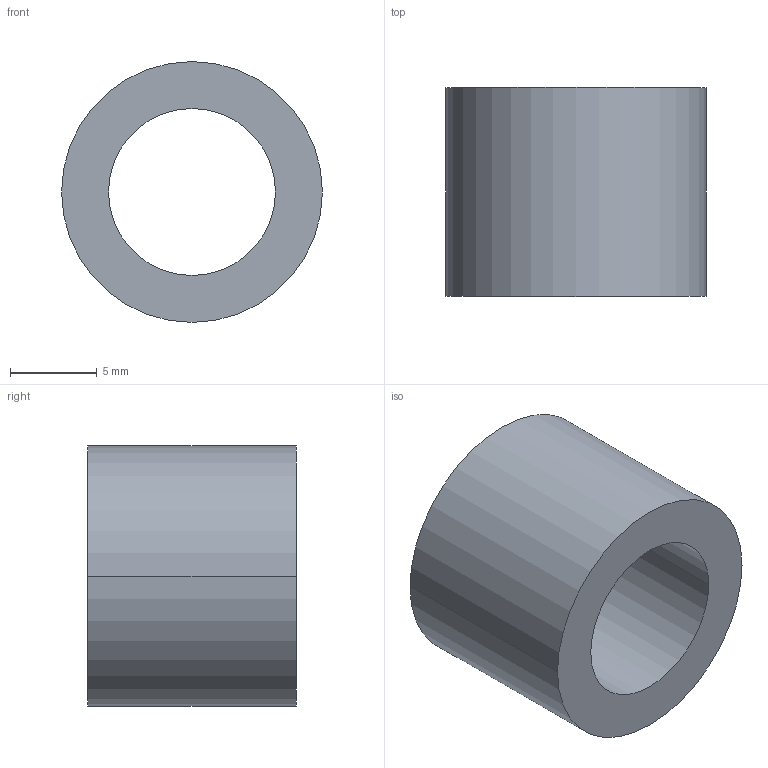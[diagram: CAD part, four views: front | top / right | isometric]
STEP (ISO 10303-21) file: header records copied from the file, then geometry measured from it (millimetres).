
FILE_DESCRIPTION (( 'STEP AP203' ), '1' );
FILE_NAME ('30800.WPP15E9.6.step', '2019-01-23T22:33:09', ( '' ), ( '' ), 'SwSTEP 2.0', 'SolidWorks 2017', '' );
FILE_SCHEMA (( 'CONFIG_CONTROL_DESIGN' ));
Length unit declared in the file: millimetre
Products named in the file (1): 30800.WPP15E9.6
Bounding box: 15 x 12 x 15 mm (x, y, z)
Volume: 1223.7 mm3; surface area: 1112 mm2
Topology: 1 solids, 1 shells, 8 faces, 16 edges, 10 vertices
Faces by surface type: cylinder 4, torus 2, plane 2
Entity records: 297 total; most frequent: DIRECTION 46, CARTESIAN_POINT 35, ORIENTED_EDGE 32, AXIS2_PLACEMENT_3D 21, EDGE_CURVE 16, CIRCLE 12, VERTEX_POINT 10, EDGE_LOOP 10
